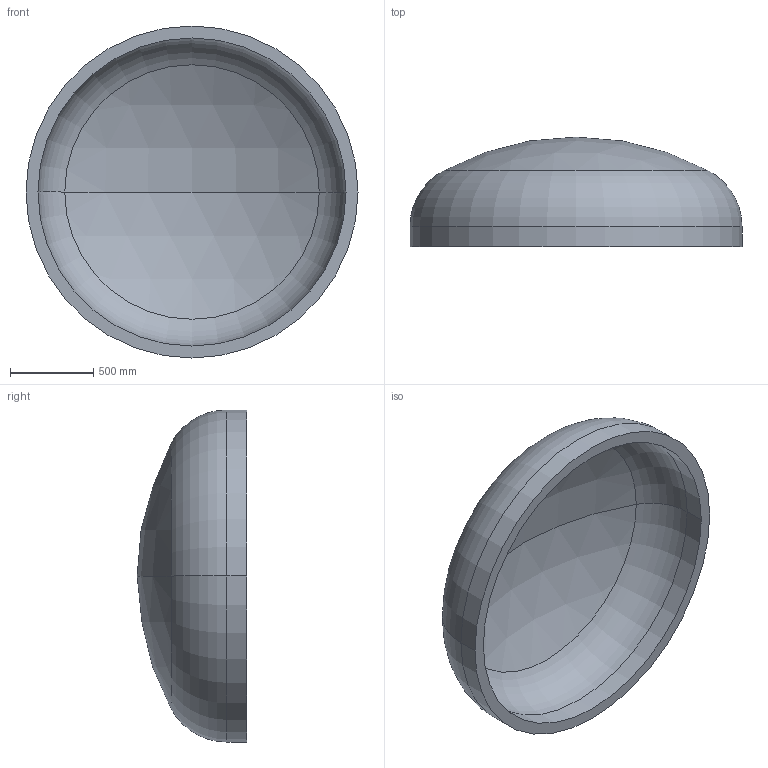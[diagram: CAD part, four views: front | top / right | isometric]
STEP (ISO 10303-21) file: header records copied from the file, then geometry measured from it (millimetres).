
FILE_DESCRIPTION (( 'STEP AP203' ), '1' );
FILE_NAME ('DIN 28013 Korbbogenform_-_Boden DIN 28013 - 2000 x 120 - I - s=72.step', '2016-07-01T14:02:29', ( '' ), ( '' ), 'SwSTEP 2.0', 'SolidWorks 2013', '' );
FILE_SCHEMA (( 'CONFIG_CONTROL_DESIGN' ));
Length unit declared in the file: millimetre
Products named in the file (1): DIN 28013 Korbbogenform_-_Boden DIN 28013 - 2000 x 120 - I - s=72
Bounding box: 2000 x 659.67 x 2000 mm (x, y, z)
Volume: 351677703.6 mm3; surface area: 10215783 mm2
Topology: 1 solids, 1 shells, 13 faces, 24 edges, 14 vertices
Faces by surface type: torus 4, cylinder 4, sphere 4, plane 1
Entity records: 407 total; most frequent: DIRECTION 72, CARTESIAN_POINT 52, ORIENTED_EDGE 48, AXIS2_PLACEMENT_3D 34, EDGE_CURVE 24, CIRCLE 20, EDGE_LOOP 14, VERTEX_POINT 14
